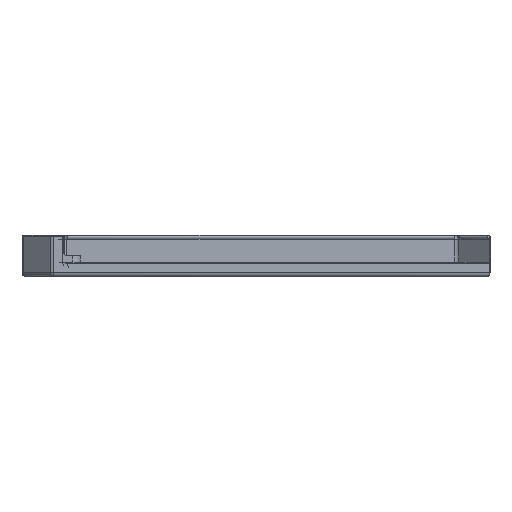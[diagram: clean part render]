
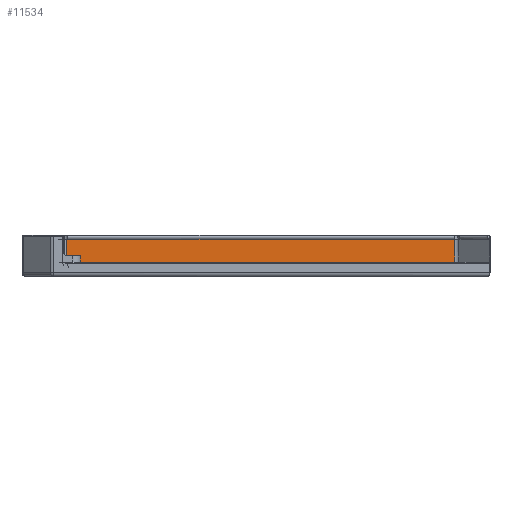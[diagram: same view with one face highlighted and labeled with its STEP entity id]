
A CAD part, left-side view. The second image highlights one B-rep face of the part: STEP entity #11534.
In plain terms, the highlighted planar face has unit normal (-1, 0, 0).
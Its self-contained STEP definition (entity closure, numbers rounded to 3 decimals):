
#3629=CARTESIAN_POINT('',(248.283,101.517,-2.5));
#3634=CARTESIAN_POINT('',(248.283,101.517,3.));
#3640=DIRECTION('',(0.,-1.,0.));
#3641=VECTOR('',#3640,0.052);
#3642=CARTESIAN_POINT('',(248.283,101.517,3.));
#3643=LINE('',#3642,#3641);
#3644=DIRECTION('',(0.,1.,0.));
#3645=VECTOR('',#3644,92.937);
#3646=CARTESIAN_POINT('',(248.283,8.528,3.));
#3647=LINE('',#3646,#3645);
#3648=DIRECTION('',(0.,-1.,0.));
#3649=VECTOR('',#3648,0.045);
#3650=CARTESIAN_POINT('',(248.283,8.528,3.));
#3651=LINE('',#3650,#3649);
#3652=DIRECTION('',(0.,0.,1.));
#3653=VECTOR('',#3652,5.5);
#3654=CARTESIAN_POINT('',(248.283,101.517,-2.5));
#3655=LINE('',#3654,#3653);
#3656=CARTESIAN_POINT('',(248.283,8.483,3.));
#3661=DIRECTION('',(0.,0.,1.));
#3662=VECTOR('',#3661,5.5);
#3663=CARTESIAN_POINT('',(248.283,8.483,-2.5));
#3664=LINE('',#3663,#3662);
#3670=DIRECTION('',(0.,-1.,0.));
#3671=VECTOR('',#3670,93.035);
#3672=CARTESIAN_POINT('',(248.283,101.517,-2.5));
#3673=LINE('',#3672,#3671);
#5571=VERTEX_POINT('',#3629);
#5572=CARTESIAN_POINT('',(248.283,8.483,-2.5));
#5573=VERTEX_POINT('',#5572);
#6726=VERTEX_POINT('',#3634);
#6727=VERTEX_POINT('',#3656);
#6776=CARTESIAN_POINT('',(248.283,101.465,3.));
#6777=VERTEX_POINT('',#6776);
#6780=CARTESIAN_POINT('',(248.283,8.528,3.));
#6781=VERTEX_POINT('',#6780);
#11519=CARTESIAN_POINT('',(248.283,101.517,-2.5));
#11520=DIRECTION('',(-1.,0.,0.));
#11521=DIRECTION('',(0.,-1.,0.));
#11522=AXIS2_PLACEMENT_3D('',#11519,#11520,#11521);
#11523=PLANE('',#11522);
#11524=ORIENTED_EDGE('',*,*,#8292,.T.);
#11525=ORIENTED_EDGE('',*,*,#8621,.F.);
#11526=ORIENTED_EDGE('',*,*,#8304,.T.);
#11528=ORIENTED_EDGE('',*,*,#11527,.F.);
#11530=ORIENTED_EDGE('',*,*,#11529,.F.);
#11531=ORIENTED_EDGE('',*,*,#11512,.T.);
#11532=EDGE_LOOP('',(#11524,#11525,#11526,#11528,#11530,#11531));
#11533=FACE_OUTER_BOUND('',#11532,.F.);
#11534=ADVANCED_FACE('',(#11533),#11523,.T.);
#8292=EDGE_CURVE('',#6726,#6777,#3643,.T.);
#8304=EDGE_CURVE('',#6781,#6727,#3651,.T.);
#8621=EDGE_CURVE('',#6781,#6777,#3647,.T.);
#11512=EDGE_CURVE('',#5571,#6726,#3655,.T.);
#11527=EDGE_CURVE('',#5573,#6727,#3664,.T.);
#11529=EDGE_CURVE('',#5571,#5573,#3673,.T.);
